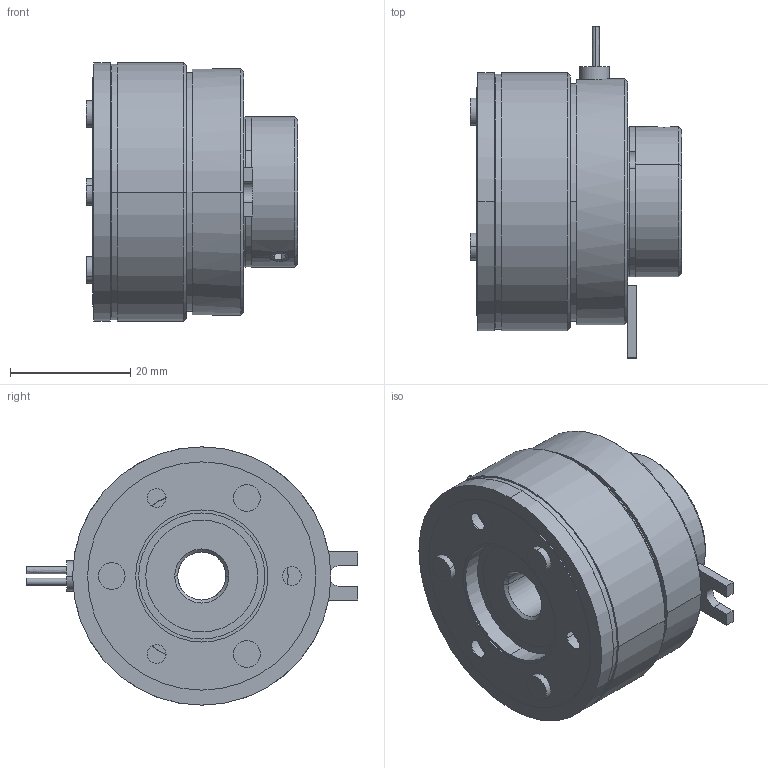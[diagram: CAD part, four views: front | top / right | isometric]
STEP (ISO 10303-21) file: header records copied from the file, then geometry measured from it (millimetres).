
FILE_DESCRIPTION((''),'2;1');
FILE_NAME('G:\Konstruktion\Datenkonvertierung\step\14.100.04.303.stp','2004-02-16T10:56:13',('Schöttelndreier'),(''),'Autodesk Inventor 8','Autodesk Inventor 8','');
FILE_SCHEMA(('AUTOMOTIVE_DESIGN { 1 0 10303 214 1 1 1 1 }'));
Length unit declared in the file: millimetre
Products named in the file (20): 14.100.04.303; 14.100.04.995-001 dxf; 14.100.04.999-001 dxf; 14.102.02-18.202 dxf; Lager; Spule_04 dxf; 14.100.04.994-100 dxf; 14.100.04.996-001 dxf; 14.100.04.992-150 dxf; Spritzmasse; 14.100.04.992-300 dxf; Reibbelag_04 dxf; 14.100.04.991-252; 14.100.04.991-300; 14.100.04.003-001; 14.100.04.993-001; 14.102.04-53.002; Niet1; DIN 916  (Regelgewinde) M4  x  8
Assembly tree (23 placements, depth 4):
  14.100.04.303
    14.100.04.995-001 dxf
      14.100.04.999-001 dxf
        14.100.04.999-001 dxf
        14.102.02-18.202 dxf
      Lager
      Spule_04 dxf
      14.100.04.994-100 dxf
    14.100.04.996-001 dxf
      14.100.04.992-150 dxf
      Spritzmasse
      14.100.04.992-300 dxf
      Reibbelag_04 dxf
    14.100.04.991-252
    14.100.04.991-300  x2
    14.100.04.003-001
      14.100.04.993-001
      14.102.04-53.002
      Niet1  x3
    DIN 916  (Regelgewinde) M4  x  8  x2
Bounding box: 35.15 x 55.25 x 43 mm (x, y, z)
Volume: 33998.8 mm3; surface area: 33786.9 mm2
Topology: 19 solids, 19 shells, 288 faces, 661 edges, 416 vertices
Faces by surface type: cylinder 134, plane 94, cone 51, bspline 7, torus 2
Entity records: 8160 total; most frequent: CARTESIAN_POINT 1843, DIRECTION 1335, ORIENTED_EDGE 1118, EDGE_CURVE 559, AXIS2_PLACEMENT_3D 548, VERTEX_POINT 360, EDGE_LOOP 305, CIRCLE 273
